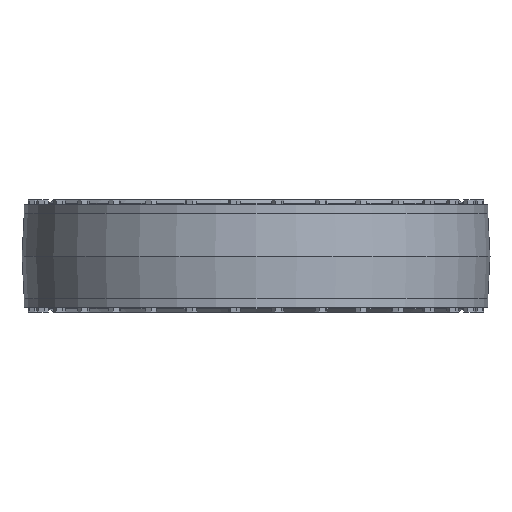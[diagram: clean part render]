
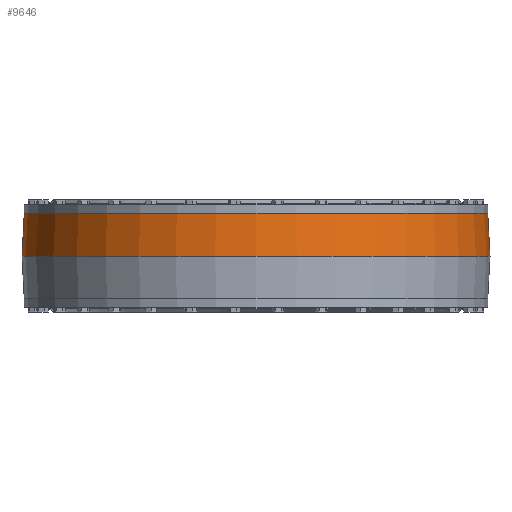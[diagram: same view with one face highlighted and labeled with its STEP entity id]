
A CAD part, front view. The second image highlights one B-rep face of the part: STEP entity #9646.
In plain terms, the highlighted conical face has half-angle 3 degrees and reference radius 427.5 mm.
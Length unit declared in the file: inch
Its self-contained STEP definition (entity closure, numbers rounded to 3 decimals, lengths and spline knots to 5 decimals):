
#66=CONICAL_SURFACE('',#10227,16.83071,0.052);
#220=CIRCLE('',#10225,16.75);
#221=CIRCLE('',#10226,16.75);
#222=CIRCLE('',#10228,16.91142);
#223=CIRCLE('',#10229,16.91142);
#706=FACE_OUTER_BOUND('',#1269,.T.);
#1269=EDGE_LOOP('',(#8197,#8198,#8199,#8200,#8201,#8202));
#2442=LINE('',#15148,#3615);
#3615=VECTOR('',#12539,16.83071);
#4458=VERTEX_POINT('',#15138);
#4459=VERTEX_POINT('',#15139);
#4460=VERTEX_POINT('',#15144);
#4461=VERTEX_POINT('',#15145);
#5705=EDGE_CURVE('',#4458,#4459,#220,.T.);
#5706=EDGE_CURVE('',#4459,#4458,#221,.T.);
#5708=EDGE_CURVE('',#4460,#4461,#222,.T.);
#5709=EDGE_CURVE('',#4461,#4460,#223,.T.);
#5710=EDGE_CURVE('',#4461,#4459,#2442,.T.);
#8197=ORIENTED_EDGE('',*,*,#5708,.F.);
#8198=ORIENTED_EDGE('',*,*,#5709,.F.);
#8199=ORIENTED_EDGE('',*,*,#5710,.T.);
#8200=ORIENTED_EDGE('',*,*,#5706,.T.);
#8201=ORIENTED_EDGE('',*,*,#5705,.T.);
#8202=ORIENTED_EDGE('',*,*,#5710,.F.);
#9646=ADVANCED_FACE('',(#706),#66,.T.);
#10225=AXIS2_PLACEMENT_3D('',#15140,#12528,#12529);
#10226=AXIS2_PLACEMENT_3D('',#15141,#12530,#12531);
#10227=AXIS2_PLACEMENT_3D('',#15143,#12533,#12534);
#10228=AXIS2_PLACEMENT_3D('',#15146,#12535,#12536);
#10229=AXIS2_PLACEMENT_3D('',#15147,#12537,#12538);
#12528=DIRECTION('center_axis',(0.,0.,-1.));
#12529=DIRECTION('ref_axis',(1.,0.,0.));
#12530=DIRECTION('center_axis',(0.,0.,-1.));
#12531=DIRECTION('ref_axis',(1.,0.,0.));
#12533=DIRECTION('center_axis',(0.,0.,-1.));
#12534=DIRECTION('ref_axis',(0.,1.,0.));
#12535=DIRECTION('center_axis',(0.,0.,-1.));
#12536=DIRECTION('ref_axis',(1.,0.,0.));
#12537=DIRECTION('center_axis',(0.,0.,-1.));
#12538=DIRECTION('ref_axis',(1.,0.,0.));
#12539=DIRECTION('',(0.,0.052,0.999));
#15138=CARTESIAN_POINT('',(0.,16.75,3.08));
#15139=CARTESIAN_POINT('',(0.,-16.75,3.08));
#15140=CARTESIAN_POINT('Origin',(0.,0.,3.08));
#15141=CARTESIAN_POINT('Origin',(0.,0.,3.08));
#15143=CARTESIAN_POINT('Origin',(0.,0.,1.54));
#15144=CARTESIAN_POINT('',(0.,16.91142,0.));
#15145=CARTESIAN_POINT('',(0.,-16.91142,0.));
#15146=CARTESIAN_POINT('Origin',(0.,0.,0.));
#15147=CARTESIAN_POINT('Origin',(0.,0.,0.));
#15148=CARTESIAN_POINT('',(0.,-16.83071,1.54));
